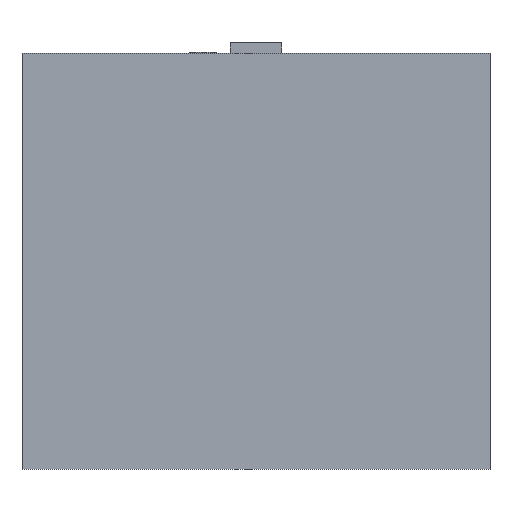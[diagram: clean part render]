
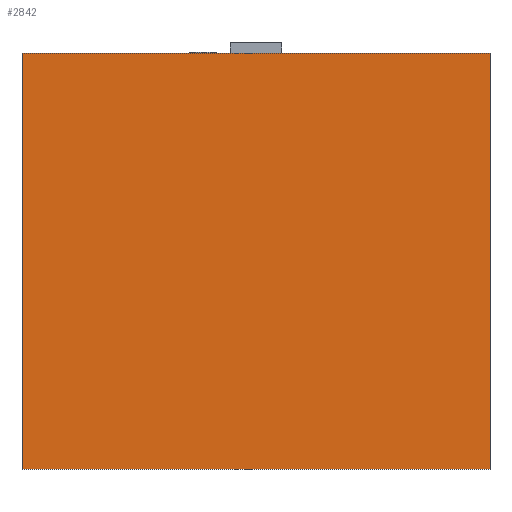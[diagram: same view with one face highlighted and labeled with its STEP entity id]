
A CAD part, left-side view. The second image highlights one B-rep face of the part: STEP entity #2842.
In plain terms, the highlighted planar face has unit normal (-1, 0, 0).
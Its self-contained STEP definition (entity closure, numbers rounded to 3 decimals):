
#273=FACE_OUTER_BOUND('',#445,.T.);
#445=EDGE_LOOP('',(#2313,#2314,#2315,#2316));
#680=LINE('',#4446,#986);
#685=LINE('',#4456,#991);
#717=LINE('',#4519,#1023);
#728=LINE('',#4540,#1034);
#986=VECTOR('',#3413,10.);
#991=VECTOR('',#3422,10.);
#1023=VECTOR('',#3462,10.);
#1034=VECTOR('',#3493,10.);
#1263=VERTEX_POINT('',#4443);
#1264=VERTEX_POINT('',#4445);
#1267=VERTEX_POINT('',#4455);
#1294=VERTEX_POINT('',#4517);
#1604=EDGE_CURVE('',#1264,#1263,#680,.T.);
#1609=EDGE_CURVE('',#1267,#1264,#685,.T.);
#1641=EDGE_CURVE('',#1294,#1263,#717,.T.);
#1652=EDGE_CURVE('',#1267,#1294,#728,.T.);
#2313=ORIENTED_EDGE('',*,*,#1609,.T.);
#2314=ORIENTED_EDGE('',*,*,#1604,.T.);
#2315=ORIENTED_EDGE('',*,*,#1641,.F.);
#2316=ORIENTED_EDGE('',*,*,#1652,.F.);
#2673=PLANE('',#3000);
#2842=ADVANCED_FACE('',(#273),#2673,.T.);
#3000=AXIS2_PLACEMENT_3D('',#4541,#3494,#3495);
#3413=DIRECTION('',(0.,0.,1.));
#3422=DIRECTION('',(0.,-1.,0.));
#3462=DIRECTION('',(0.,-1.,0.));
#3493=DIRECTION('',(0.,0.,1.));
#3494=DIRECTION('center_axis',(-1.,0.,0.));
#3495=DIRECTION('ref_axis',(0.,-1.,0.));
#4443=CARTESIAN_POINT('',(0.,0.,40.));
#4445=CARTESIAN_POINT('',(0.,0.,0.));
#4446=CARTESIAN_POINT('',(0.,0.,0.));
#4455=CARTESIAN_POINT('',(0.,45.,0.));
#4456=CARTESIAN_POINT('',(0.,45.,0.));
#4517=CARTESIAN_POINT('',(0.,45.,40.));
#4519=CARTESIAN_POINT('',(0.,45.,40.));
#4540=CARTESIAN_POINT('',(0.,45.,0.));
#4541=CARTESIAN_POINT('Origin',(0.,45.,0.));
